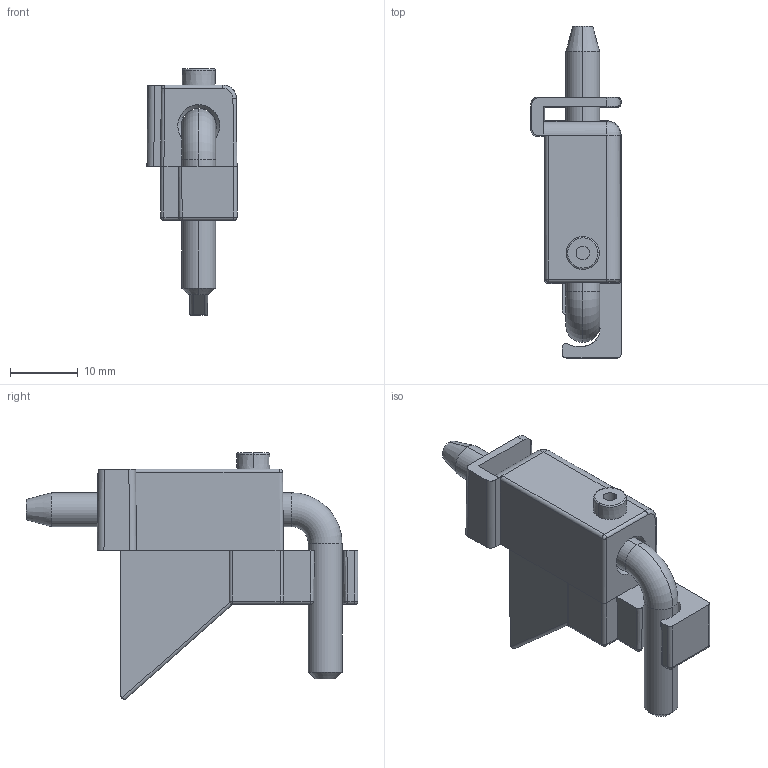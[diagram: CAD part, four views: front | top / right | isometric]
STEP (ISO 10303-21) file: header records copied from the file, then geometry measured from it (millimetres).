
FILE_DESCRIPTION (( 'STEP AP214' ), '1' );
FILE_NAME ('3.ST96.004.STEP', '2025-06-03T07:13:01', ( '' ), ( '' ), 'SwSTEP 2.0', 'SolidWorks 2021', '' );
FILE_SCHEMA (( 'AUTOMOTIVE_DESIGN' ));
Length unit declared in the file: millimetre
Products named in the file (3): 3.ST96.004.01_A; 3.ST96.004; 3.ST96.001.02_C
Assembly tree (2 placements, depth 2):
  3.ST96.004
    3.ST96.004.01_A
    3.ST96.001.02_C
Bounding box: 13.3 x 49 x 36.39 mm (x, y, z)
Volume: 6056.9 mm3; surface area: 4546.2 mm2
Topology: 2 solids, 2 shells, 113 faces, 267 edges, 157 vertices
Faces by surface type: plane 41, cylinder 40, cone 9, sphere 9, bspline 7, torus 7
Entity records: 3573 total; most frequent: CARTESIAN_POINT 996, ORIENTED_EDGE 524, DIRECTION 509, EDGE_CURVE 262, AXIS2_PLACEMENT_3D 186, VERTEX_POINT 157, LINE 137, VECTOR 137
